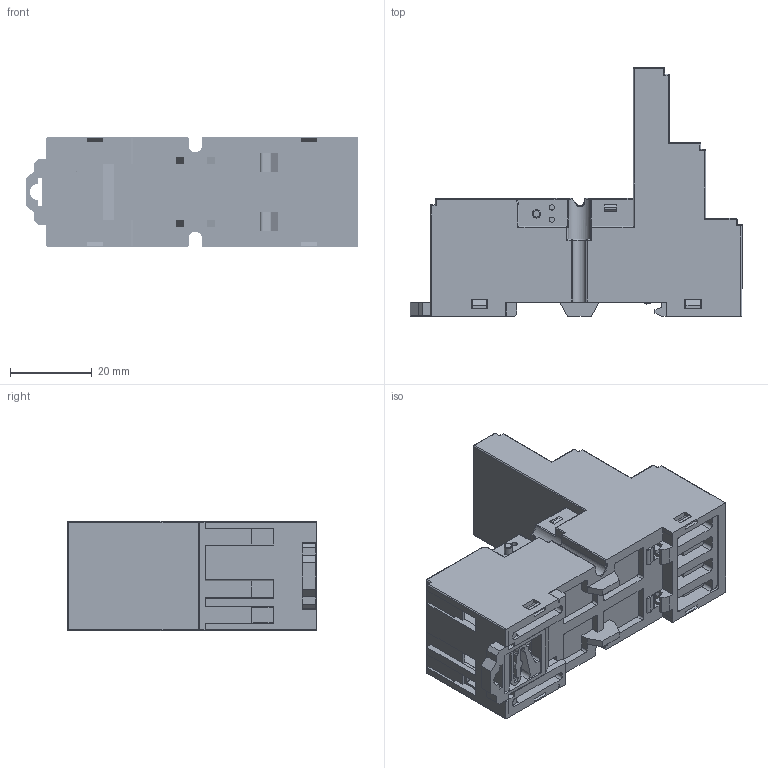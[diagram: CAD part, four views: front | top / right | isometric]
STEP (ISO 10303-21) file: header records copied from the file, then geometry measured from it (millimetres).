
FILE_DESCRIPTION (( 'STEP AP203' ), '1' );
FILE_NAME ('SKC14-E 俋夤芞.STEP', '2019-06-12T04:17:54', ( 'shenler' ), ( 'Microsoft' ), 'SwSTEP 2.0', 'SolidWorks 2017', '' );
FILE_SCHEMA (( 'CONFIG_CONTROL_DESIGN' ));
Length unit declared in the file: millimetre
Products named in the file (4): M3 E倰蹟隊; SKC14-E 菁啣; SKC14-E 俋夤芞; M3諉盄翐
Assembly tree (25 placements, depth 2):
  SKC14-E 俋夤芞
    M3諉盄翐  x10
    M3 E倰蹟隊  x14
    SKC14-E 菁啣
Bounding box: 81.4 x 61 x 26.9 mm (x, y, z)
Volume: 41065.3 mm3; surface area: 45723.3 mm2
Topology: 25 solids, 28 shells, 5075 faces, 13121 edges, 8215 vertices
Faces by surface type: plane 2909, cylinder 832, cone 737, torus 571, sphere 22, bspline 4
Entity records: 72390 total; most frequent: CARTESIAN_POINT 13085, ORIENTED_EDGE 12488, DIRECTION 11550, EDGE_CURVE 6244, LINE 5312, VECTOR 5312, VERTEX_POINT 4040, AXIS2_PLACEMENT_3D 3119
